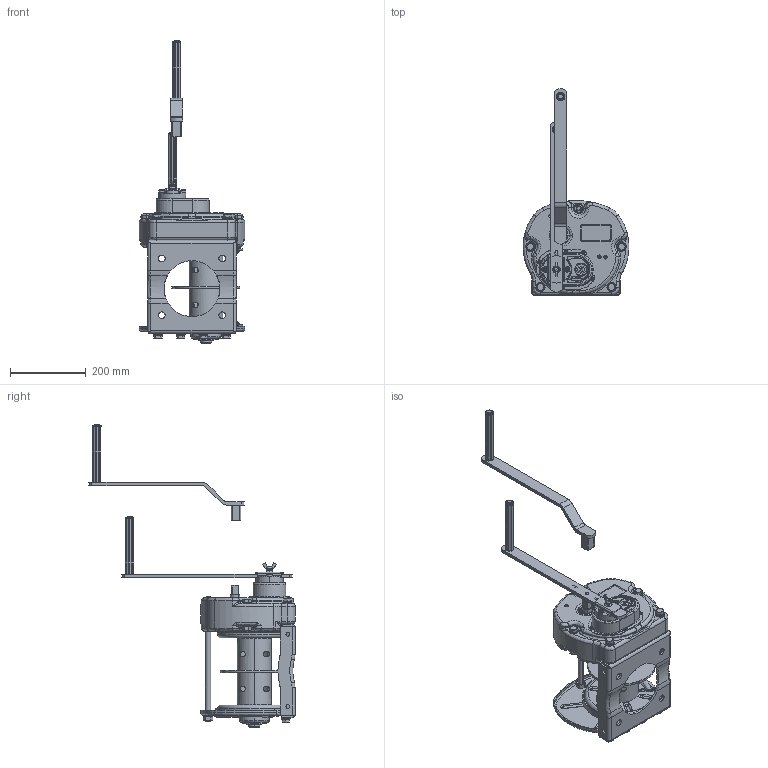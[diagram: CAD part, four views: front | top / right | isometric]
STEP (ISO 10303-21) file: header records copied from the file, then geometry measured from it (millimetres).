
FILE_DESCRIPTION( (''), '2;1');
FILE_NAME ('GM-20-NWD-SI.stp','2023-12-28T16:41:54',(''),(''),'spGate 19.8.2 (****-****-****-****)','','');
FILE_SCHEMA (('AUTOMOTIVE_DESIGN'));
Length unit declared in the file: millimetre
Products named in the file (4): Assembly; GM-20-NWD-SI-prt0; GM-20-NWD-SI-prt1; GM-20-NWD-SI-prt2
Assembly tree (3 placements, depth 2):
  Assembly
    GM-20-NWD-SI-prt0
    GM-20-NWD-SI-prt1
    GM-20-NWD-SI-prt2
Bounding box: 279.93 x 545.43 x 801.4 mm (x, y, z)
Volume: 7217902.4 mm3; surface area: 1057966.1 mm2
Topology: 3 solids, 3 shells, 3068 faces, 7945 edges, 4987 vertices
Faces by surface type: plane 1445, cylinder 964, bspline 553, sphere 106
Entity records: 168861 total; most frequent: CARTESIAN_POINT 32987, ORIENTED_EDGE 15750, DIRECTION 15045, COLOUR_RGB 10946, PRESENTATION_STYLE_ASSIGNMENT 10946, STYLED_ITEM 10946, EDGE_CURVE 7875, DRAUGHTING_PRE_DEFINED_CURVE_FONT 7875
